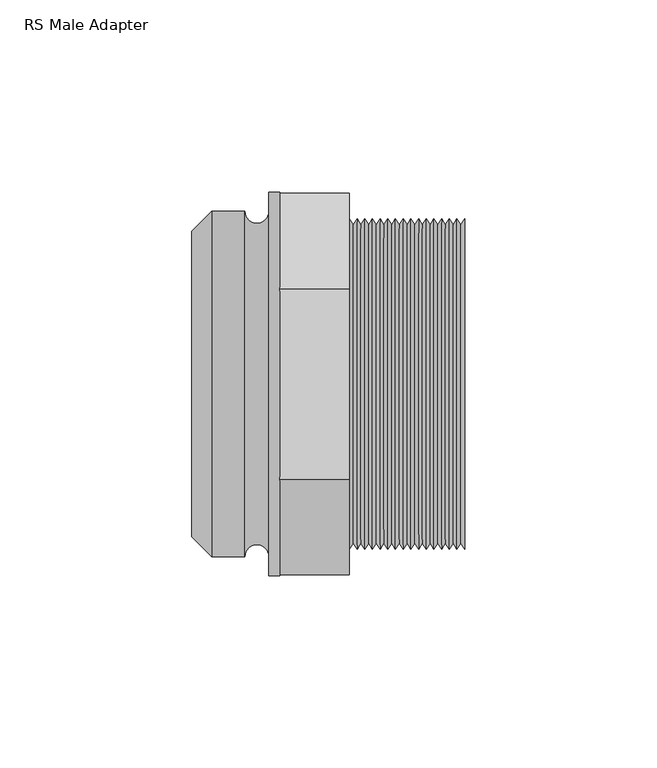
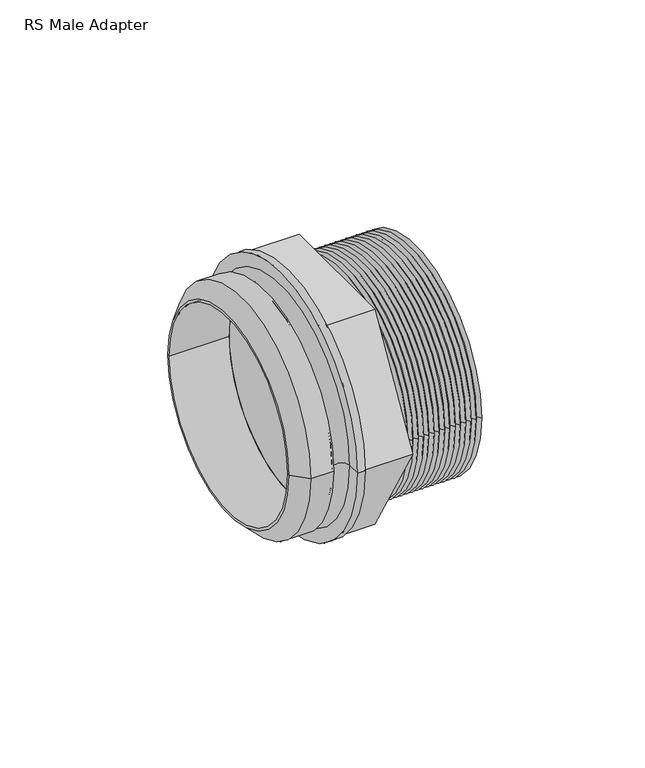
"""IFC4 building model written with IfcOpenShell, lengths in millimetres: pipe fitting geometry, RS Male Adapter : Superpipe RS3 MT Adapter 3”."""

from ifc_helpers import new_model, si_unit, point, frame, origin, origin_2d, place, context, project, spatial, polyline, circle_curve, ellipse_curve, trimmed, segment, composite_curve, outline, extrude, source, transform, mapped, element, save
from ifc_brep_helpers import plane_surface, cylinder_surface, revolved_surface, advanced_brep


def rs_male_adapter_f12c7176(model_context):
    return source(origin(), model_context, "Body", "SolidModel", [
        extrude(outline(polyline([(-49.6521232, 0.0), (-24.8260616, 43.0), (24.8260616, 43.0), (49.6521232, 0.0), (24.8260616, -43.0), (-24.8260616, -43.0), (-49.6521232, 0.0)]), holes=[composite_curve([segment(trimmed(circle_curve(origin_2d(), 38.8), [point((0.0, 38.8))], [point((0.0, -38.8))], True, "CARTESIAN"), True, "CONTINUOUS"), segment(trimmed(circle_curve(origin_2d(), 38.8), [point((0.0, -38.8))], [point((0.0, 38.8))], True, "CARTESIAN"), True, "CONTINUOUS")], self_intersect=False)]), frame((22.8, 0.0, 0.0), z_axis=(1.0, 0.0, 0.0), x_axis=(0.0, 1.0, 0.0)), (0.0, 0.0, 1.0), 18.2),
        advanced_brep(
        [(71.0, -43.0, 0.0), (71.0, 43.0, 0.0), (71.0, 38.8, 0.0), (71.0, -38.8, 0.0), (41.0, -38.8, 0.0), (41.0, 38.8, 0.0), (41.0, 43.0, 0.0), (41.0, -43.0, 0.0), (70.0, -41.5, 0.0), (70.0, 41.5, 0.0), (69.0, -43.0, 0.0), (69.0, 43.0, 0.0), (68.0, -41.5, 0.0), (68.0, 41.5, 0.0), (67.0, -43.0, 0.0), (67.0, 43.0, 0.0), (66.0, -41.5, 0.0), (66.0, 41.5, 0.0), (65.0, -43.0, 0.0), (65.0, 43.0, 0.0), (64.0, -41.5, 0.0), (64.0, 41.5, 0.0), (63.0, -43.0, 0.0), (63.0, 43.0, 0.0), (62.0, -41.5, 0.0), (62.0, 41.5, 0.0), (61.0, -43.0, 0.0), (61.0, 43.0, 0.0), (60.0, -41.5, 0.0), (60.0, 41.5, 0.0), (59.0, -43.0, 0.0), (59.0, 43.0, 0.0), (58.0, -41.5, 0.0), (58.0, 41.5, 0.0), (57.0, -43.0, 0.0), (57.0, 43.0, 0.0), (56.0, -41.5, 0.0), (56.0, 41.5, 0.0), (55.0, -43.0, 0.0), (55.0, 43.0, 0.0), (54.0, -41.5, 0.0), (54.0, 41.5, 0.0), (53.0, -43.0, 0.0), (53.0, 43.0, 0.0), (52.0, -41.5, 0.0), (52.0, 41.5, 0.0), (51.0, -43.0, 0.0), (51.0, 43.0, 0.0), (50.0, -41.5, 0.0), (50.0, 41.5, 0.0), (49.0, -43.0, 0.0), (49.0, 43.0, 0.0), (48.0, -41.5, 0.0), (48.0, 41.5, 0.0), (47.0, -43.0, 0.0), (47.0, 43.0, 0.0), (46.0, -41.5, 0.0), (46.0, 41.5, 0.0), (45.0, -43.0, 0.0), (45.0, 43.0, 0.0), (44.0, -41.5, 0.0), (44.0, 41.5, 0.0), (43.0, -43.0, 0.0), (43.0, 43.0, 0.0), (42.0, -41.5, 0.0), (42.0, 41.5, 0.0)],
        [
            (0, 1, circle_curve(frame((71.0, 0.0, 0.0), z_axis=(1.0, 0.0, 0.0), x_axis=(0.0, 1.0, 0.0)), 43.0)),
            (1, 2),
            (2, 3, circle_curve(frame((71.0, 0.0, 0.0), z_axis=(-1.0, 0.0, 0.0), x_axis=(0.0, 1.0, 0.0)), 38.8)),
            (3, 0),
            (4, 5, circle_curve(frame((41.0, 0.0, 0.0), z_axis=(1.0, 0.0, 0.0), x_axis=(0.0, 1.0, 0.0)), 38.8)),
            (5, 6),
            (6, 7, circle_curve(frame((41.0, 0.0, 0.0), z_axis=(-1.0, 0.0, 0.0), x_axis=(0.0, 1.0, 0.0)), 43.0)),
            (7, 4),
            (5, 4, circle_curve(frame((41.0, 0.0, 0.0), z_axis=(1.0, 0.0, 0.0), x_axis=(0.0, 1.0, 0.0)), 38.8)),
            (7, 6, circle_curve(frame((41.0, 0.0, 0.0), z_axis=(-1.0, 0.0, 0.0), x_axis=(0.0, 1.0, 0.0)), 43.0)),
            (1, 0, circle_curve(frame((71.0, 0.0, 0.0), z_axis=(1.0, 0.0, 0.0), x_axis=(0.0, 1.0, 0.0)), 43.0)),
            (3, 2, circle_curve(frame((71.0, 0.0, 0.0), z_axis=(-1.0, 0.0, 0.0), x_axis=(0.0, 1.0, 0.0)), 38.8)),
            (2, 5),
            (4, 3),
            (8, 9, circle_curve(frame((70.0, 0.0, 0.0), z_axis=(1.0, 0.0, 0.0), x_axis=(0.0, 1.0, 0.0)), 41.5)),
            (9, 1),
            (0, 8),
            (9, 8, circle_curve(frame((70.0, 0.0, 0.0), z_axis=(1.0, 0.0, 0.0), x_axis=(0.0, 1.0, 0.0)), 41.5)),
            (10, 11, circle_curve(frame((69.0, 0.0, 0.0), z_axis=(1.0, 0.0, 0.0), x_axis=(0.0, 1.0, 0.0)), 43.0)),
            (11, 9),
            (8, 10),
            (11, 10, circle_curve(frame((69.0, 0.0, 0.0), z_axis=(1.0, 0.0, 0.0), x_axis=(0.0, 1.0, 0.0)), 43.0)),
            (12, 13, circle_curve(frame((68.0, 0.0, 0.0), z_axis=(1.0, 0.0, 0.0), x_axis=(0.0, 1.0, 0.0)), 41.5)),
            (13, 11),
            (10, 12),
            (13, 12, circle_curve(frame((68.0, 0.0, 0.0), z_axis=(1.0, 0.0, 0.0), x_axis=(0.0, 1.0, 0.0)), 41.5)),
            (14, 15, circle_curve(frame((67.0, 0.0, 0.0), z_axis=(1.0, 0.0, 0.0), x_axis=(0.0, 1.0, 0.0)), 43.0)),
            (15, 13),
            (12, 14),
            (15, 14, circle_curve(frame((67.0, 0.0, 0.0), z_axis=(1.0, 0.0, 0.0), x_axis=(0.0, 1.0, 0.0)), 43.0)),
            (16, 17, circle_curve(frame((66.0, 0.0, 0.0), z_axis=(1.0, 0.0, 0.0), x_axis=(0.0, 1.0, 0.0)), 41.5)),
            (17, 15),
            (14, 16),
            (17, 16, circle_curve(frame((66.0, 0.0, 0.0), z_axis=(1.0, 0.0, 0.0), x_axis=(0.0, 1.0, 0.0)), 41.5)),
            (18, 19, circle_curve(frame((65.0, 0.0, 0.0), z_axis=(1.0, 0.0, 0.0), x_axis=(0.0, 1.0, 0.0)), 43.0)),
            (19, 17),
            (16, 18),
            (19, 18, circle_curve(frame((65.0, 0.0, 0.0), z_axis=(1.0, 0.0, 0.0), x_axis=(0.0, 1.0, 0.0)), 43.0)),
            (20, 21, circle_curve(frame((64.0, 0.0, 0.0), z_axis=(1.0, 0.0, 0.0), x_axis=(0.0, 1.0, 0.0)), 41.5)),
            (21, 19),
            (18, 20),
            (21, 20, circle_curve(frame((64.0, 0.0, 0.0), z_axis=(1.0, 0.0, 0.0), x_axis=(0.0, 1.0, 0.0)), 41.5)),
            (22, 23, circle_curve(frame((63.0, 0.0, 0.0), z_axis=(1.0, 0.0, 0.0), x_axis=(0.0, 1.0, 0.0)), 43.0)),
            (23, 21),
            (20, 22),
            (23, 22, circle_curve(frame((63.0, 0.0, 0.0), z_axis=(1.0, 0.0, 0.0), x_axis=(0.0, 1.0, 0.0)), 43.0)),
            (24, 25, circle_curve(frame((62.0, 0.0, 0.0), z_axis=(1.0, 0.0, 0.0), x_axis=(0.0, 1.0, 0.0)), 41.5)),
            (25, 23),
            (22, 24),
            (25, 24, circle_curve(frame((62.0, 0.0, 0.0), z_axis=(1.0, 0.0, 0.0), x_axis=(0.0, 1.0, 0.0)), 41.5)),
            (26, 27, circle_curve(frame((61.0, 0.0, 0.0), z_axis=(1.0, 0.0, 0.0), x_axis=(0.0, 1.0, 0.0)), 43.0)),
            (27, 25),
            (24, 26),
            (27, 26, circle_curve(frame((61.0, 0.0, 0.0), z_axis=(1.0, 0.0, 0.0), x_axis=(0.0, 1.0, 0.0)), 43.0)),
            (28, 29, circle_curve(frame((60.0, 0.0, 0.0), z_axis=(1.0, 0.0, 0.0), x_axis=(0.0, 1.0, 0.0)), 41.5)),
            (29, 27),
            (26, 28),
            (29, 28, circle_curve(frame((60.0, 0.0, 0.0), z_axis=(1.0, 0.0, 0.0), x_axis=(0.0, 1.0, 0.0)), 41.5)),
            (30, 31, circle_curve(frame((59.0, 0.0, 0.0), z_axis=(1.0, 0.0, 0.0), x_axis=(0.0, 1.0, 0.0)), 43.0)),
            (31, 29),
            (28, 30),
            (31, 30, circle_curve(frame((59.0, 0.0, 0.0), z_axis=(1.0, 0.0, 0.0), x_axis=(0.0, 1.0, 0.0)), 43.0)),
            (32, 33, circle_curve(frame((58.0, 0.0, 0.0), z_axis=(1.0, 0.0, 0.0), x_axis=(0.0, 1.0, 0.0)), 41.5)),
            (33, 31),
            (30, 32),
            (33, 32, circle_curve(frame((58.0, 0.0, 0.0), z_axis=(1.0, 0.0, 0.0), x_axis=(0.0, 1.0, 0.0)), 41.5)),
            (34, 35, circle_curve(frame((57.0, 0.0, 0.0), z_axis=(1.0, 0.0, 0.0), x_axis=(0.0, 1.0, 0.0)), 43.0)),
            (35, 33),
            (32, 34),
            (35, 34, circle_curve(frame((57.0, 0.0, 0.0), z_axis=(1.0, 0.0, 0.0), x_axis=(0.0, 1.0, 0.0)), 43.0)),
            (36, 37, circle_curve(frame((56.0, 0.0, 0.0), z_axis=(1.0, 0.0, 0.0), x_axis=(0.0, 1.0, 0.0)), 41.5)),
            (37, 35),
            (34, 36),
            (37, 36, circle_curve(frame((56.0, 0.0, 0.0), z_axis=(1.0, 0.0, 0.0), x_axis=(0.0, 1.0, 0.0)), 41.5)),
            (38, 39, circle_curve(frame((55.0, 0.0, 0.0), z_axis=(1.0, 0.0, 0.0), x_axis=(0.0, 1.0, 0.0)), 43.0)),
            (39, 37),
            (36, 38),
            (39, 38, circle_curve(frame((55.0, 0.0, 0.0), z_axis=(1.0, 0.0, 0.0), x_axis=(0.0, 1.0, 0.0)), 43.0)),
            (40, 41, circle_curve(frame((54.0, 0.0, 0.0), z_axis=(1.0, 0.0, 0.0), x_axis=(0.0, 1.0, 0.0)), 41.5)),
            (41, 39),
            (38, 40),
            (41, 40, circle_curve(frame((54.0, 0.0, 0.0), z_axis=(1.0, 0.0, 0.0), x_axis=(0.0, 1.0, 0.0)), 41.5)),
            (42, 43, circle_curve(frame((53.0, 0.0, 0.0), z_axis=(1.0, 0.0, 0.0), x_axis=(0.0, 1.0, 0.0)), 43.0)),
            (43, 41),
            (40, 42),
            (43, 42, circle_curve(frame((53.0, 0.0, 0.0), z_axis=(1.0, 0.0, 0.0), x_axis=(0.0, 1.0, 0.0)), 43.0)),
            (44, 45, circle_curve(frame((52.0, 0.0, 0.0), z_axis=(1.0, 0.0, 0.0), x_axis=(0.0, 1.0, 0.0)), 41.5)),
            (45, 43),
            (42, 44),
            (45, 44, circle_curve(frame((52.0, 0.0, 0.0), z_axis=(1.0, 0.0, 0.0), x_axis=(0.0, 1.0, 0.0)), 41.5)),
            (46, 47, circle_curve(frame((51.0, 0.0, 0.0), z_axis=(1.0, 0.0, 0.0), x_axis=(0.0, 1.0, 0.0)), 43.0)),
            (47, 45),
            (44, 46),
            (47, 46, circle_curve(frame((51.0, 0.0, 0.0), z_axis=(1.0, 0.0, 0.0), x_axis=(0.0, 1.0, 0.0)), 43.0)),
            (48, 49, circle_curve(frame((50.0, 0.0, 0.0), z_axis=(1.0, 0.0, 0.0), x_axis=(0.0, 1.0, 0.0)), 41.5)),
            (49, 47),
            (46, 48),
            (49, 48, circle_curve(frame((50.0, 0.0, 0.0), z_axis=(1.0, 0.0, 0.0), x_axis=(0.0, 1.0, 0.0)), 41.5)),
            (50, 51, circle_curve(frame((49.0, 0.0, 0.0), z_axis=(1.0, 0.0, 0.0), x_axis=(0.0, 1.0, 0.0)), 43.0)),
            (51, 49),
            (48, 50),
            (51, 50, circle_curve(frame((49.0, 0.0, 0.0), z_axis=(1.0, 0.0, 0.0), x_axis=(0.0, 1.0, 0.0)), 43.0)),
            (52, 53, circle_curve(frame((48.0, 0.0, 0.0), z_axis=(1.0, 0.0, 0.0), x_axis=(0.0, 1.0, 0.0)), 41.5)),
            (53, 51),
            (50, 52),
            (53, 52, circle_curve(frame((48.0, 0.0, 0.0), z_axis=(1.0, 0.0, 0.0), x_axis=(0.0, 1.0, 0.0)), 41.5)),
            (54, 55, circle_curve(frame((47.0, 0.0, 0.0), z_axis=(1.0, 0.0, 0.0), x_axis=(0.0, 1.0, 0.0)), 43.0)),
            (55, 53),
            (52, 54),
            (55, 54, circle_curve(frame((47.0, 0.0, 0.0), z_axis=(1.0, 0.0, 0.0), x_axis=(0.0, 1.0, 0.0)), 43.0)),
            (56, 57, circle_curve(frame((46.0, 0.0, 0.0), z_axis=(1.0, 0.0, 0.0), x_axis=(0.0, 1.0, 0.0)), 41.5)),
            (57, 55),
            (54, 56),
            (57, 56, circle_curve(frame((46.0, 0.0, 0.0), z_axis=(1.0, 0.0, 0.0), x_axis=(0.0, 1.0, 0.0)), 41.5)),
            (58, 59, circle_curve(frame((45.0, 0.0, 0.0), z_axis=(1.0, 0.0, 0.0), x_axis=(0.0, 1.0, 0.0)), 43.0)),
            (59, 57),
            (56, 58),
            (59, 58, circle_curve(frame((45.0, 0.0, 0.0), z_axis=(1.0, 0.0, 0.0), x_axis=(0.0, 1.0, 0.0)), 43.0)),
            (60, 61, circle_curve(frame((44.0, 0.0, 0.0), z_axis=(1.0, 0.0, 0.0), x_axis=(0.0, 1.0, 0.0)), 41.5)),
            (61, 59),
            (58, 60),
            (61, 60, circle_curve(frame((44.0, 0.0, 0.0), z_axis=(1.0, 0.0, 0.0), x_axis=(0.0, 1.0, 0.0)), 41.5)),
            (62, 63, circle_curve(frame((43.0, 0.0, 0.0), z_axis=(1.0, 0.0, 0.0), x_axis=(0.0, 1.0, 0.0)), 43.0)),
            (63, 61),
            (60, 62),
            (63, 62, circle_curve(frame((43.0, 0.0, 0.0), z_axis=(1.0, 0.0, 0.0), x_axis=(0.0, 1.0, 0.0)), 43.0)),
            (64, 65, circle_curve(frame((42.0, 0.0, 0.0), z_axis=(1.0, 0.0, 0.0), x_axis=(0.0, 1.0, 0.0)), 41.5)),
            (65, 63),
            (62, 64),
            (65, 64, circle_curve(frame((42.0, 0.0, 0.0), z_axis=(1.0, 0.0, 0.0), x_axis=(0.0, 1.0, 0.0)), 41.5)),
            (6, 65),
            (64, 7),
        ],
        [
            plane_surface(frame((71.0, 0.0, 0.0), z_axis=(1.0, 0.0, 0.0), x_axis=(0.0, 1.0, 0.0))),
            plane_surface(frame((41.0, 0.0, 0.0), z_axis=(-1.0, 0.0, 0.0), x_axis=(0.0, 1.0, 0.0))),
            revolved_surface(polyline([(41.0, 38.8, 0.0), (71.0, 38.8, 0.0)]), (2005.0, 0.0, 0.0), (-1.0, 0.0, 0.0)),
            revolved_surface(polyline([(71.0, 43.0, 0.0), (70.0, 41.5, 0.0)]), (2005.0, 0.0, 0.0), (-1.0, 0.0, 0.0)),
            revolved_surface(polyline([(70.0, 41.5, 0.0), (69.0, 43.0, 0.0)]), (2005.0, 0.0, 0.0), (-1.0, 0.0, 0.0)),
            revolved_surface(polyline([(69.0, 43.0, 0.0), (68.0, 41.5, 0.0)]), (2005.0, 0.0, 0.0), (-1.0, 0.0, 0.0)),
            revolved_surface(polyline([(68.0, 41.5, 0.0), (67.0, 43.0, 0.0)]), (2005.0, 0.0, 0.0), (-1.0, 0.0, 0.0)),
            revolved_surface(polyline([(67.0, 43.0, 0.0), (66.0, 41.5, 0.0)]), (2005.0, 0.0, 0.0), (-1.0, 0.0, 0.0)),
            revolved_surface(polyline([(66.0, 41.5, 0.0), (65.0, 43.0, 0.0)]), (2005.0, 0.0, 0.0), (-1.0, 0.0, 0.0)),
            revolved_surface(polyline([(65.0, 43.0, 0.0), (64.0, 41.5, 0.0)]), (2005.0, 0.0, 0.0), (-1.0, 0.0, 0.0)),
            revolved_surface(polyline([(64.0, 41.5, 0.0), (63.0, 43.0, 0.0)]), (2005.0, 0.0, 0.0), (-1.0, 0.0, 0.0)),
            revolved_surface(polyline([(63.0, 43.0, 0.0), (62.0, 41.5, 0.0)]), (2005.0, 0.0, 0.0), (-1.0, 0.0, 0.0)),
            revolved_surface(polyline([(62.0, 41.5, 0.0), (61.0, 43.0, 0.0)]), (2005.0, 0.0, 0.0), (-1.0, 0.0, 0.0)),
            revolved_surface(polyline([(61.0, 43.0, 0.0), (60.0, 41.5, 0.0)]), (2005.0, 0.0, 0.0), (-1.0, 0.0, 0.0)),
            revolved_surface(polyline([(60.0, 41.5, 0.0), (59.0, 43.0, 0.0)]), (2005.0, 0.0, 0.0), (-1.0, 0.0, 0.0)),
            revolved_surface(polyline([(59.0, 43.0, 0.0), (58.0, 41.5, 0.0)]), (2005.0, 0.0, 0.0), (-1.0, 0.0, 0.0)),
            revolved_surface(polyline([(58.0, 41.5, 0.0), (57.0, 43.0, 0.0)]), (2005.0, 0.0, 0.0), (-1.0, 0.0, 0.0)),
            revolved_surface(polyline([(57.0, 43.0, 0.0), (56.0, 41.5, 0.0)]), (2005.0, 0.0, 0.0), (-1.0, 0.0, 0.0)),
            revolved_surface(polyline([(56.0, 41.5, 0.0), (55.0, 43.0, 0.0)]), (2005.0, 0.0, 0.0), (-1.0, 0.0, 0.0)),
            revolved_surface(polyline([(55.0, 43.0, 0.0), (54.0, 41.5, 0.0)]), (2005.0, 0.0, 0.0), (-1.0, 0.0, 0.0)),
            revolved_surface(polyline([(54.0, 41.5, 0.0), (53.0, 43.0, 0.0)]), (2005.0, 0.0, 0.0), (-1.0, 0.0, 0.0)),
            revolved_surface(polyline([(53.0, 43.0, 0.0), (52.0, 41.5, 0.0)]), (2005.0, 0.0, 0.0), (-1.0, 0.0, 0.0)),
            revolved_surface(polyline([(52.0, 41.5, 0.0), (51.0, 43.0, 0.0)]), (2005.0, 0.0, 0.0), (-1.0, 0.0, 0.0)),
            revolved_surface(polyline([(51.0, 43.0, 0.0), (50.0, 41.5, 0.0)]), (2005.0, 0.0, 0.0), (-1.0, 0.0, 0.0)),
            revolved_surface(polyline([(50.0, 41.5, 0.0), (49.0, 43.0, 0.0)]), (2005.0, 0.0, 0.0), (-1.0, 0.0, 0.0)),
            revolved_surface(polyline([(49.0, 43.0, 0.0), (48.0, 41.5, 0.0)]), (2005.0, 0.0, 0.0), (-1.0, 0.0, 0.0)),
            revolved_surface(polyline([(48.0, 41.5, 0.0), (47.0, 43.0, 0.0)]), (2005.0, 0.0, 0.0), (-1.0, 0.0, 0.0)),
            revolved_surface(polyline([(47.0, 43.0, 0.0), (46.0, 41.5, 0.0)]), (2005.0, 0.0, 0.0), (-1.0, 0.0, 0.0)),
            revolved_surface(polyline([(46.0, 41.5, 0.0), (45.0, 43.0, 0.0)]), (2005.0, 0.0, 0.0), (-1.0, 0.0, 0.0)),
            revolved_surface(polyline([(45.0, 43.0, 0.0), (44.0, 41.5, 0.0)]), (2005.0, 0.0, 0.0), (-1.0, 0.0, 0.0)),
            revolved_surface(polyline([(44.0, 41.5, 0.0), (43.0, 43.0, 0.0)]), (2005.0, 0.0, 0.0), (-1.0, 0.0, 0.0)),
            revolved_surface(polyline([(43.0, 43.0, 0.0), (42.0, 41.5, 0.0)]), (2005.0, 0.0, 0.0), (-1.0, 0.0, 0.0)),
            revolved_surface(polyline([(42.0, 41.5, 0.0), (41.0, 43.0, 0.0)]), (2005.0, 0.0, 0.0), (-1.0, 0.0, 0.0)),
        ],
        [
            (0, [[1, 2, 3, 4]]),
            (1, [[5, 6, 7, 8]]),
            (1, [[9, -8, 10, -6]]),
            (0, [[11, -4, 12, -2]]),
            (2, [[-3, 13, -5, 14]]),
            (2, [[-12, -14, -9, -13]]),
            (3, [[15, 16, -1, 17]]),
            (3, [[18, -17, -11, -16]]),
            (4, [[19, 20, -15, 21]]),
            (4, [[22, -21, -18, -20]]),
            (5, [[23, 24, -19, 25]]),
            (5, [[26, -25, -22, -24]]),
            (6, [[27, 28, -23, 29]]),
            (6, [[30, -29, -26, -28]]),
            (7, [[31, 32, -27, 33]]),
            (7, [[34, -33, -30, -32]]),
            (8, [[35, 36, -31, 37]]),
            (8, [[38, -37, -34, -36]]),
            (9, [[39, 40, -35, 41]]),
            (9, [[42, -41, -38, -40]]),
            (10, [[43, 44, -39, 45]]),
            (10, [[46, -45, -42, -44]]),
            (11, [[47, 48, -43, 49]]),
            (11, [[50, -49, -46, -48]]),
            (12, [[51, 52, -47, 53]]),
            (12, [[54, -53, -50, -52]]),
            (13, [[55, 56, -51, 57]]),
            (13, [[58, -57, -54, -56]]),
            (14, [[59, 60, -55, 61]]),
            (14, [[62, -61, -58, -60]]),
            (15, [[63, 64, -59, 65]]),
            (15, [[66, -65, -62, -64]]),
            (16, [[67, 68, -63, 69]]),
            (16, [[70, -69, -66, -68]]),
            (17, [[71, 72, -67, 73]]),
            (17, [[74, -73, -70, -72]]),
            (18, [[75, 76, -71, 77]]),
            (18, [[78, -77, -74, -76]]),
            (19, [[79, 80, -75, 81]]),
            (19, [[82, -81, -78, -80]]),
            (20, [[83, 84, -79, 85]]),
            (20, [[86, -85, -82, -84]]),
            (21, [[87, 88, -83, 89]]),
            (21, [[90, -89, -86, -88]]),
            (22, [[91, 92, -87, 93]]),
            (22, [[94, -93, -90, -92]]),
            (23, [[95, 96, -91, 97]]),
            (23, [[98, -97, -94, -96]]),
            (24, [[99, 100, -95, 101]]),
            (24, [[102, -101, -98, -100]]),
            (25, [[103, 104, -99, 105]]),
            (25, [[106, -105, -102, -104]]),
            (26, [[107, 108, -103, 109]]),
            (26, [[110, -109, -106, -108]]),
            (27, [[111, 112, -107, 113]]),
            (27, [[114, -113, -110, -112]]),
            (28, [[115, 116, -111, 117]]),
            (28, [[118, -117, -114, -116]]),
            (29, [[119, 120, -115, 121]]),
            (29, [[122, -121, -118, -120]]),
            (30, [[123, 124, -119, 125]]),
            (30, [[126, -125, -122, -124]]),
            (31, [[127, 128, -123, 129]]),
            (31, [[130, -129, -126, -128]]),
            (32, [[-7, 131, -127, 132]]),
            (32, [[-10, -132, -130, -131]]),
        ],
    ),
        advanced_brep(
        [(20.0, -50.0, 0.0), (20.0, 50.0, 0.0), (22.8, 50.0, 0.0), (22.8, -50.0, 0.0), (20.0, -45.0, 0.0), (20.0, 45.0, 0.0), (22.8, -38.8, 0.0), (22.8, 38.8, 0.0), (0.0, 38.8, 0.0), (0.0, -38.8, 0.0), (0.0, -39.8, 0.0), (0.0, 39.8, 0.0), (5.2, 45.0, 0.0), (5.2, -45.0, 0.0), (13.8, -45.0, 0.0), (13.8, 45.0, 0.0)],
        [
            (0, 1, circle_curve(frame((20.0, 0.0, 0.0), z_axis=(1.0, 0.0, 0.0), x_axis=(0.0, 1.0, 0.0)), 50.0)),
            (1, 2),
            (2, 3, circle_curve(frame((22.8, 0.0, 0.0), z_axis=(-1.0, 0.0, 0.0), x_axis=(0.0, 1.0, 0.0)), 50.0)),
            (3, 0),
            (1, 0, circle_curve(frame((20.0, 0.0, 0.0), z_axis=(1.0, 0.0, 0.0), x_axis=(0.0, 1.0, 0.0)), 50.0)),
            (3, 2, circle_curve(frame((22.8, 0.0, 0.0), z_axis=(-1.0, 0.0, 0.0), x_axis=(0.0, 1.0, 0.0)), 50.0)),
            (4, 5, circle_curve(frame((20.0, 0.0, 0.0), z_axis=(1.0, 0.0, 0.0), x_axis=(0.0, 1.0, 0.0)), 45.0)),
            (5, 1),
            (0, 4),
            (5, 4, circle_curve(frame((20.0, 0.0, 0.0), z_axis=(1.0, 0.0, 0.0), x_axis=(0.0, 1.0, 0.0)), 45.0)),
            (6, 7, circle_curve(frame((22.8, 0.0, 0.0), z_axis=(1.0, 0.0, 0.0), x_axis=(0.0, 1.0, 0.0)), 38.8)),
            (7, 8),
            (8, 9, circle_curve(frame((0.0, 0.0, 0.0), z_axis=(-1.0, 0.0, 0.0), x_axis=(0.0, 1.0, 0.0)), 38.8)),
            (9, 6),
            (7, 6, circle_curve(frame((22.8, 0.0, 0.0), z_axis=(1.0, 0.0, 0.0), x_axis=(0.0, 1.0, 0.0)), 38.8)),
            (9, 8, circle_curve(frame((0.0, 0.0, 0.0), z_axis=(-1.0, 0.0, 0.0), x_axis=(0.0, 1.0, 0.0)), 38.8)),
            (2, 7),
            (6, 3),
            (10, 11, circle_curve(frame((0.0, 0.0, 0.0), z_axis=(1.0, 0.0, 0.0), x_axis=(0.0, 1.0, 0.0)), 39.8)),
            (11, 12),
            (12, 13, circle_curve(frame((5.2, 0.0, 0.0), z_axis=(-1.0, 0.0, 0.0), x_axis=(0.0, 1.0, 0.0)), 45.0)),
            (13, 10),
            (11, 10, circle_curve(frame((0.0, 0.0, 0.0), z_axis=(1.0, 0.0, 0.0), x_axis=(0.0, 1.0, 0.0)), 39.8)),
            (13, 12, circle_curve(frame((5.2, 0.0, 0.0), z_axis=(-1.0, 0.0, 0.0), x_axis=(0.0, 1.0, 0.0)), 45.0)),
            (8, 11),
            (10, 9),
            (14, 15, circle_curve(frame((13.8, 0.0, 0.0), z_axis=(1.0, 0.0, 0.0), x_axis=(0.0, 1.0, 0.0)), 45.0)),
            (15, 5, circle_curve(frame((16.9, 45.0, 0.0), z_axis=(0.0, 0.0, 1.0), x_axis=(1.0, 0.0, 0.0)), 3.1)),
            (4, 14, circle_curve(frame((16.9, -45.0, 0.0), z_axis=(0.0, 0.0, 1.0), x_axis=(1.0, 0.0, 0.0)), 3.1)),
            (15, 14, circle_curve(frame((13.8, 0.0, 0.0), z_axis=(1.0, 0.0, 0.0), x_axis=(0.0, 1.0, 0.0)), 45.0)),
            (12, 15),
            (14, 13),
        ],
        [
            cylinder_surface(frame((1991.0, 0.0, 0.0), z_axis=(-1.0, 0.0, 0.0), x_axis=(0.0, 1.0, 0.0)), 50.0),
            plane_surface(frame((20.0, 0.0, 0.0), z_axis=(-1.0, 0.0, 0.0), x_axis=(0.0, 1.0, 0.0))),
            revolved_surface(polyline([(0.0, 38.8, 0.0), (22.799999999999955, 38.8, 0.0)]), (1991.0, 0.0, 0.0), (-1.0, 0.0, 0.0)),
            plane_surface(frame((22.8, 0.0, 0.0), z_axis=(1.0, 0.0, 0.0), x_axis=(0.0, 1.0, 0.0))),
            revolved_surface(polyline([(5.2, 45.0, 0.0), (0.0, 39.8, 0.0)]), (1991.0, 0.0, 0.0), (-1.0, 0.0, 0.0)),
            plane_surface(frame((0.0, 0.0, 0.0), z_axis=(-1.0, 0.0, 0.0), x_axis=(0.0, 1.0, 0.0))),
            revolved_surface(trimmed(ellipse_curve(frame((16.9, 45.0, 0.0), z_axis=(0.0, 0.0, -1.0), x_axis=(1.0, 0.0, 0.0)), 3.1, 3.1), [point((20.0, 45.0, 0.0))], [point((13.8, 45.0, 0.0))], True, "CARTESIAN"), (1991.0, 0.0, 0.0), (-1.0, 0.0, 0.0)),
            cylinder_surface(frame((1991.0, 0.0, 0.0), z_axis=(-1.0, 0.0, 0.0), x_axis=(0.0, 1.0, 0.0)), 45.0),
        ],
        [
            (0, [[1, 2, 3, 4]]),
            (0, [[5, -4, 6, -2]]),
            (1, [[7, 8, -1, 9]]),
            (1, [[10, -9, -5, -8]]),
            (2, [[11, 12, 13, 14]]),
            (2, [[15, -14, 16, -12]]),
            (3, [[-3, 17, -11, 18]]),
            (3, [[-6, -18, -15, -17]]),
            (4, [[19, 20, 21, 22]]),
            (4, [[23, -22, 24, -20]]),
            (5, [[-13, 25, -19, 26]]),
            (5, [[-16, -26, -23, -25]]),
            (6, [[27, 28, -7, 29]]),
            (6, [[30, -29, -10, -28]]),
            (7, [[-21, 31, -27, 32]]),
            (7, [[-24, -32, -30, -31]]),
        ],
    ),
    ])


if __name__ == "__main__":
    model = new_model("IFC4")
    model_context = context("Model", 3, world=origin())
    ifc_project = project(units=[si_unit("LENGTHUNIT", "METRE", prefix="MILLI")], contexts=[model_context])
    site = spatial("IfcSite", under=ifc_project)
    building = spatial("IfcBuilding", under=site)
    placement = place(None, origin())
    rs_male_adapter_shape = rs_male_adapter_f12c7176(model_context)
    element("IfcPipeFitting", 1, ObjectType="RS Male Adapter : Superpipe RS3 MT Adapter 3”", at=placement, inside=building, context=model_context, shape_type="MappedRepresentation", body=[
        mapped(rs_male_adapter_shape, transform((0.0, 0.0, 0.0), x_axis=(1.0, 0.0, 0.0), y_axis=(0.0, 1.0, 0.0), z_axis=(0.0, 0.0, 1.0))),
    ])
    save(model, "model.ifc")
